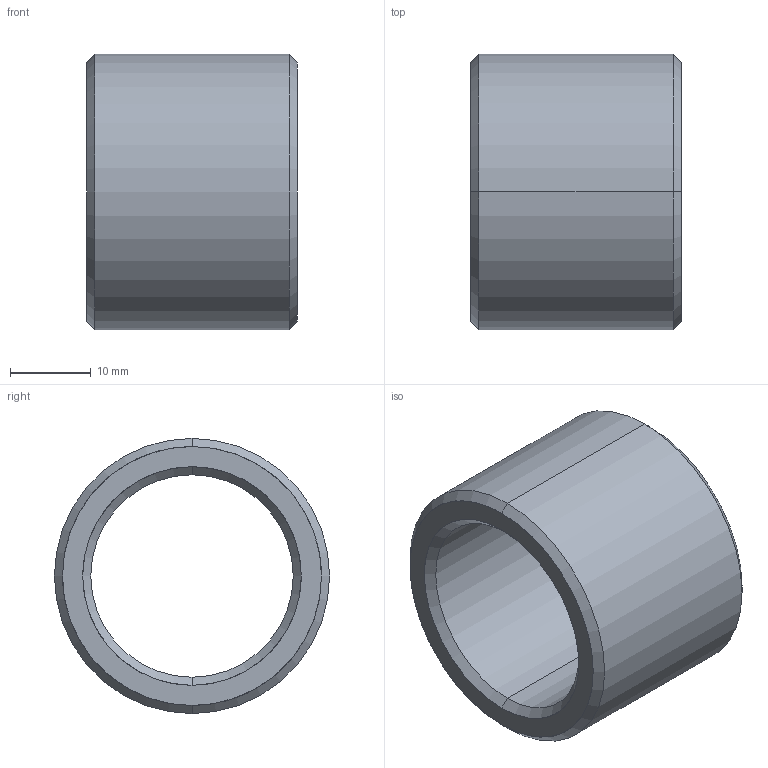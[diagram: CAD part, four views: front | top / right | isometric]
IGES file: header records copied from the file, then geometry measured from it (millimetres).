
Start section: START RECORD GO HERE.
Global section: file name: 352-25X26.igs; native system: DASSAULT SYSTEMES CATIA V5 R20 - www.3ds.com; preprocessor: CATIA Version 5 Release 20 ; author: Utente; organization: NB04-ASUS; date: 20210415.081335; units: millimetre
Bounding box: 26 x 34 x 34 mm (x, y, z)
Surface area: 5447.6 mm2 (no closed solid volume)
Topology: 0 solids, 0 shells, 14 faces, 88 edges, 88 vertices
Faces by surface type: revolution 12, plane 2
